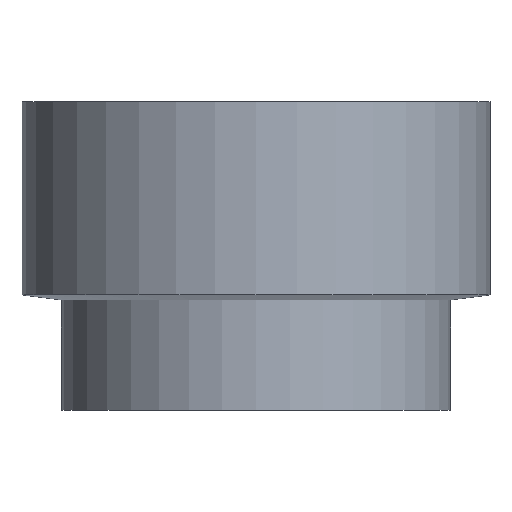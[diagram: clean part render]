
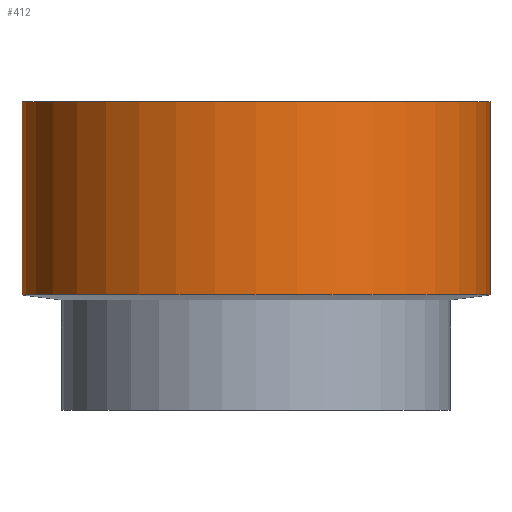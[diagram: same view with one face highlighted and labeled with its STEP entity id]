
A CAD part, front view. The second image highlights one B-rep face of the part: STEP entity #412.
In plain terms, the highlighted cylindrical face has radius 59.4 mm (diameter 118.8 mm), a partial arc.
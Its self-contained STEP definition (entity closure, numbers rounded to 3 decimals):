
#29 = AXIS2_PLACEMENT_3D ( 'NONE', #142, #430, #256 ) ;
#43 = ORIENTED_EDGE ( 'NONE', *, *, #511, .T. ) ;
#50 = VERTEX_POINT ( 'NONE', #164 ) ;
#59 = VERTEX_POINT ( 'NONE', #466 ) ;
#62 = VERTEX_POINT ( 'NONE', #83 ) ;
#76 = DIRECTION ( 'NONE',  ( 0., 0., -1. ) ) ;
#83 = CARTESIAN_POINT ( 'NONE',  ( -59.4, 0., 78.21 ) ) ;
#104 = CARTESIAN_POINT ( 'NONE',  ( 59.4, 0., 78.21 ) ) ;
#108 = VECTOR ( 'NONE', #76, 1000. ) ;
#112 = LINE ( 'NONE', #122, #108 ) ;
#122 = CARTESIAN_POINT ( 'NONE',  ( -59.4, 0., 78.21 ) ) ;
#141 = ORIENTED_EDGE ( 'NONE', *, *, #338, .F. ) ;
#142 = CARTESIAN_POINT ( 'NONE',  ( 0., 0., 78.21 ) ) ;
#146 = AXIS2_PLACEMENT_3D ( 'NONE', #352, #519, #155 ) ;
#147 = DIRECTION ( 'NONE',  ( 0., 0., -1. ) ) ;
#148 = VERTEX_POINT ( 'NONE', #177 ) ;
#155 = DIRECTION ( 'NONE',  ( -1., 0., 0. ) ) ;
#164 = CARTESIAN_POINT ( 'NONE',  ( 59.4, 0., 78.21 ) ) ;
#166 = FACE_OUTER_BOUND ( 'NONE', #241, .T. ) ;
#177 = CARTESIAN_POINT ( 'NONE',  ( -59.4, 0., 29.21 ) ) ;
#190 = CYLINDRICAL_SURFACE ( 'NONE', #146, 59.4 ) ;
#209 = CIRCLE ( 'NONE', #513, 59.4 ) ;
#216 = EDGE_CURVE ( 'NONE', #50, #59, #307, .T. ) ;
#229 = EDGE_CURVE ( 'NONE', #62, #50, #361, .T. ) ;
#241 = EDGE_LOOP ( 'NONE', ( #524, #299, #43, #141 ) ) ;
#256 = DIRECTION ( 'NONE',  ( 1., 0., 0. ) ) ;
#299 = ORIENTED_EDGE ( 'NONE', *, *, #229, .F. ) ;
#302 = DIRECTION ( 'NONE',  ( -1., 0., 0. ) ) ;
#307 = LINE ( 'NONE', #104, #345 ) ;
#338 = EDGE_CURVE ( 'NONE', #59, #148, #209, .T. ) ;
#345 = VECTOR ( 'NONE', #435, 1000. ) ;
#352 = CARTESIAN_POINT ( 'NONE',  ( 0., 0., 78.21 ) ) ;
#361 = CIRCLE ( 'NONE', #29, 59.4 ) ;
#412 = ADVANCED_FACE ( 'NONE', ( #166 ), #190, .T. ) ;
#430 = DIRECTION ( 'NONE',  ( 0., 0., 1. ) ) ;
#435 = DIRECTION ( 'NONE',  ( 0., 0., -1. ) ) ;
#466 = CARTESIAN_POINT ( 'NONE',  ( 59.4, 0., 29.21 ) ) ;
#511 = EDGE_CURVE ( 'NONE', #62, #148, #112, .T. ) ;
#512 = CARTESIAN_POINT ( 'NONE',  ( 0., 0., 29.21 ) ) ;
#513 = AXIS2_PLACEMENT_3D ( 'NONE', #512, #147, #302 ) ;
#519 = DIRECTION ( 'NONE',  ( 0., 0., -1. ) ) ;
#524 = ORIENTED_EDGE ( 'NONE', *, *, #216, .F. ) ;
